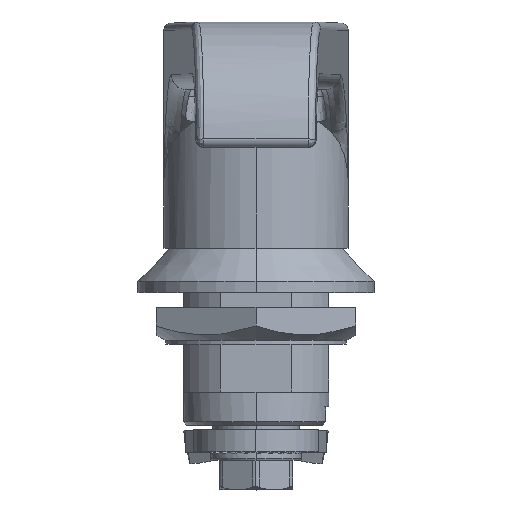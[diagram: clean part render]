
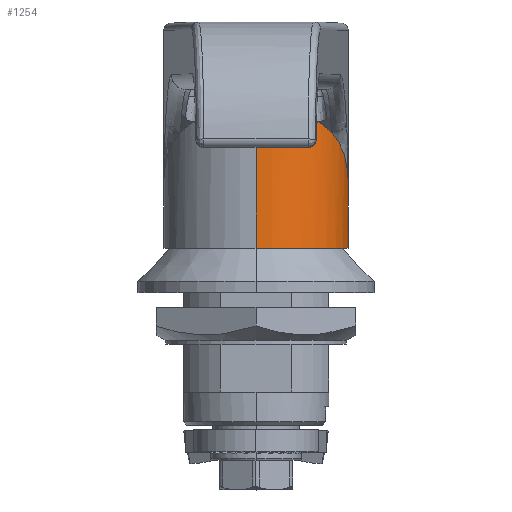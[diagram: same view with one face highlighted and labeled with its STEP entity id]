
A CAD part, top view. The second image highlights one B-rep face of the part: STEP entity #1254.
In plain terms, the highlighted cylindrical face has radius 12.5 mm (diameter 25 mm), a partial arc.
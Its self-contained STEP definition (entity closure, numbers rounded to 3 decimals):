
#66 = CARTESIAN_POINT ( 'NONE',  ( 0., 22., 12.5 ) ) ;
#311 = CIRCLE ( 'NONE', #13217, 12.5 ) ;
#842 = CIRCLE ( 'NONE', #13419, 12.5 ) ;
#967 = CIRCLE ( 'NONE', #13244, 12.5 ) ;
#1190 = CYLINDRICAL_SURFACE ( 'NONE', #6555, 12.5 ) ;
#1254 = ADVANCED_FACE ( 'NONE', ( #6995 ), #1190, .T. ) ;
#1751 = VERTEX_POINT ( 'NONE', #66 ) ;
#1963 = DIRECTION ( 'NONE',  ( 0., 0., -1. ) ) ;
#1968 = DIRECTION ( 'NONE',  ( 0., 1., 0. ) ) ;
#1987 = CARTESIAN_POINT ( 'NONE',  ( 0., 1.5, 0. ) ) ;
#2547 = CARTESIAN_POINT ( 'NONE',  ( 7.8, 22., 9.768 ) ) ;
#2585 = CARTESIAN_POINT ( 'NONE',  ( 7.853, 20.938, 9.725 ) ) ;
#3017 = CARTESIAN_POINT ( 'NONE',  ( 12.489, 31., 0.533 ) ) ;
#3047 = VERTEX_POINT ( 'NONE', #6991 ) ;
#3366 = CARTESIAN_POINT ( 'NONE',  ( 12.329, 12.422, 2.058 ) ) ;
#3568 = CARTESIAN_POINT ( 'NONE',  ( 0., 32., 0. ) ) ;
#3602 = CARTESIAN_POINT ( 'NONE',  ( 7.96, 18.815, 9.638 ) ) ;
#3654 = CARTESIAN_POINT ( 'NONE',  ( 7.907, 19.877, 9.682 ) ) ;
#3718 = CARTESIAN_POINT ( 'NONE',  ( 10.255, 17.167, 7.147 ) ) ;
#3744 = DIRECTION ( 'NONE',  ( 0., -1., 0. ) ) ;
#3768 = CARTESIAN_POINT ( 'NONE',  ( 10.555, 16.851, 6.717 ) ) ;
#3823 = B_SPLINE_CURVE_WITH_KNOTS ( 'NONE', 3,
 ( #3968, #11704, #8528, #11124 ),
 .UNSPECIFIED., .F., .F.,
 ( 4, 4 ),
 ( 0., 0.004 ),
 .UNSPECIFIED. ) ;
#3850 = CARTESIAN_POINT ( 'NONE',  ( 10.818, 16.514, 6.283 ) ) ;
#3856 = DIRECTION ( 'NONE',  ( 0., 0., -1. ) ) ;
#3899 = CARTESIAN_POINT ( 'NONE',  ( 11.278, 15.798, 5.414 ) ) ;
#3968 = CARTESIAN_POINT ( 'NONE',  ( 10.255, 17.167, 7.147 ) ) ;
#4000 = CARTESIAN_POINT ( 'NONE',  ( 11.476, 15.418, 4.977 ) ) ;
#4079 = VERTEX_POINT ( 'NONE', #9965 ) ;
#4101 = EDGE_CURVE ( 'NONE', #5580, #11305, #3823, .T. ) ;
#4552 = CARTESIAN_POINT ( 'NONE',  ( 11.812, 14.619, 4.115 ) ) ;
#4602 = CARTESIAN_POINT ( 'NONE',  ( 11.951, 14.203, 3.689 ) ) ;
#4696 = CARTESIAN_POINT ( 'NONE',  ( 12.177, 13.335, 2.856 ) ) ;
#4839 = CARTESIAN_POINT ( 'NONE',  ( 12.329, 12.422, 2.058 ) ) ;
#5198 = ORIENTED_EDGE ( 'NONE', *, *, #7351, .F. ) ;
#5338 = EDGE_CURVE ( 'NONE', #11305, #7391, #12619, .T. ) ;
#5384 = ORIENTED_EDGE ( 'NONE', *, *, #8242, .T. ) ;
#5497 = VERTEX_POINT ( 'NONE', #10709 ) ;
#5580 = VERTEX_POINT ( 'NONE', #7180 ) ;
#5596 = EDGE_CURVE ( 'NONE', #5497, #12232, #12261, .T. ) ;
#5618 = EDGE_CURVE ( 'NONE', #12232, #5580, #11591, .T. ) ;
#6555 = AXIS2_PLACEMENT_3D ( 'NONE', #3568, #3744, #3856 ) ;
#6778 = CARTESIAN_POINT ( 'NONE',  ( 12.329, 12.422, 2.058 ) ) ;
#6824 = CARTESIAN_POINT ( 'NONE',  ( 12.397, 11.945, 1.652 ) ) ;
#6991 = CARTESIAN_POINT ( 'NONE',  ( 0., 1.5, 12.5 ) ) ;
#6995 = FACE_OUTER_BOUND ( 'NONE', #11836, .T. ) ;
#7142 = CARTESIAN_POINT ( 'NONE',  ( 12.264, 12.886, 2.451 ) ) ;
#7180 = CARTESIAN_POINT ( 'NONE',  ( 10.255, 17.167, 7.147 ) ) ;
#7331 = EDGE_CURVE ( 'NONE', #7391, #1751, #842, .T. ) ;
#7351 = EDGE_CURVE ( 'NONE', #10451, #4079, #967, .T. ) ;
#7391 = VERTEX_POINT ( 'NONE', #12696 ) ;
#7503 = CARTESIAN_POINT ( 'NONE',  ( 0., 32., 12.5 ) ) ;
#7640 = DIRECTION ( 'NONE',  ( 0., -1., 0. ) ) ;
#7695 = CARTESIAN_POINT ( 'NONE',  ( 12.463, 11.346, 1.144 ) ) ;
#8090 = DIRECTION ( 'NONE',  ( 0., -1., 0. ) ) ;
#8092 = CARTESIAN_POINT ( 'NONE',  ( 0., 32., -12.5 ) ) ;
#8242 = EDGE_CURVE ( 'NONE', #10451, #5497, #10824, .T. ) ;
#8338 = VECTOR ( 'NONE', #7640, 1000. ) ;
#8454 = LINE ( 'NONE', #7503, #8338 ) ;
#8484 = CARTESIAN_POINT ( 'NONE',  ( 7.96, 18.815, 9.638 ) ) ;
#8528 = CARTESIAN_POINT ( 'NONE',  ( 8.877, 18.366, 8.881 ) ) ;
#8821 = CARTESIAN_POINT ( 'NONE',  ( 12.489, 10.627, 0.533 ) ) ;
#8896 = EDGE_CURVE ( 'NONE', #4079, #13366, #8949, .T. ) ;
#8926 = VECTOR ( 'NONE', #8090, 1000. ) ;
#8949 = LINE ( 'NONE', #8092, #8926 ) ;
#9130 = EDGE_CURVE ( 'NONE', #1751, #3047, #8454, .T. ) ;
#9772 = CARTESIAN_POINT ( 'NONE',  ( 12.489, 32., 0.533 ) ) ;
#9793 = DIRECTION ( 'NONE',  ( 0., -1., 0. ) ) ;
#9955 = ORIENTED_EDGE ( 'NONE', *, *, #9130, .T. ) ;
#9957 = ORIENTED_EDGE ( 'NONE', *, *, #12478, .T. ) ;
#9965 = CARTESIAN_POINT ( 'NONE',  ( 0., 31., -12.5 ) ) ;
#10451 = VERTEX_POINT ( 'NONE', #3017 ) ;
#10603 = ORIENTED_EDGE ( 'NONE', *, *, #5338, .T. ) ;
#10709 = CARTESIAN_POINT ( 'NONE',  ( 12.489, 10.627, 0.533 ) ) ;
#10798 = VECTOR ( 'NONE', #9793, 1000. ) ;
#10824 = LINE ( 'NONE', #9772, #10798 ) ;
#10850 = ORIENTED_EDGE ( 'NONE', *, *, #7331, .T. ) ;
#11124 = CARTESIAN_POINT ( 'NONE',  ( 7.96, 18.815, 9.638 ) ) ;
#11305 = VERTEX_POINT ( 'NONE', #8484 ) ;
#11587 = CARTESIAN_POINT ( 'NONE',  ( 0., 1.5, -12.5 ) ) ;
#11591 = B_SPLINE_CURVE_WITH_KNOTS ( 'NONE', 3,
 ( #4839, #7142, #4696, #4602, #4552, #4000, #3899, #3850, #3768, #3718 ),
 .UNSPECIFIED., .F., .F.,
 ( 4, 2, 2, 2, 4 ),
 ( 0., 0.002, 0.004, 0.005, 0.007 ),
 .UNSPECIFIED. ) ;
#11659 = ORIENTED_EDGE ( 'NONE', *, *, #5596, .T. ) ;
#11704 = CARTESIAN_POINT ( 'NONE',  ( 9.634, 17.823, 8.039 ) ) ;
#11836 = EDGE_LOOP ( 'NONE', ( #10850, #9955, #9957, #11996, #5198, #5384, #11659, #12386, #12162, #10603 ) ) ;
#11996 = ORIENTED_EDGE ( 'NONE', *, *, #8896, .F. ) ;
#12162 = ORIENTED_EDGE ( 'NONE', *, *, #4101, .T. ) ;
#12232 = VERTEX_POINT ( 'NONE', #3366 ) ;
#12261 = B_SPLINE_CURVE_WITH_KNOTS ( 'NONE', 3,
 ( #8821, #7695, #6824, #6778 ),
 .UNSPECIFIED., .F., .F.,
 ( 4, 4 ),
 ( 0., 1. ),
 .UNSPECIFIED. ) ;
#12386 = ORIENTED_EDGE ( 'NONE', *, *, #5618, .T. ) ;
#12478 = EDGE_CURVE ( 'NONE', #3047, #13366, #311, .T. ) ;
#12619 = B_SPLINE_CURVE_WITH_KNOTS ( 'NONE', 3,
 ( #3602, #3654, #2585, #2547 ),
 .UNSPECIFIED., .F., .F.,
 ( 4, 4 ),
 ( 0., 1. ),
 .UNSPECIFIED. ) ;
#12696 = CARTESIAN_POINT ( 'NONE',  ( 7.8, 22., 9.768 ) ) ;
#12768 = DIRECTION ( 'NONE',  ( 0., 0., 1. ) ) ;
#12787 = DIRECTION ( 'NONE',  ( 0., 1., 0. ) ) ;
#12809 = CARTESIAN_POINT ( 'NONE',  ( 0., 31., 0. ) ) ;
#12912 = DIRECTION ( 'NONE',  ( 0., 0., -1. ) ) ;
#12944 = DIRECTION ( 'NONE',  ( 0., -1., 0. ) ) ;
#12949 = CARTESIAN_POINT ( 'NONE',  ( 0., 22., 0. ) ) ;
#13217 = AXIS2_PLACEMENT_3D ( 'NONE', #1987, #1968, #1963 ) ;
#13244 = AXIS2_PLACEMENT_3D ( 'NONE', #12809, #12787, #12768 ) ;
#13366 = VERTEX_POINT ( 'NONE', #11587 ) ;
#13419 = AXIS2_PLACEMENT_3D ( 'NONE', #12949, #12944, #12912 ) ;
